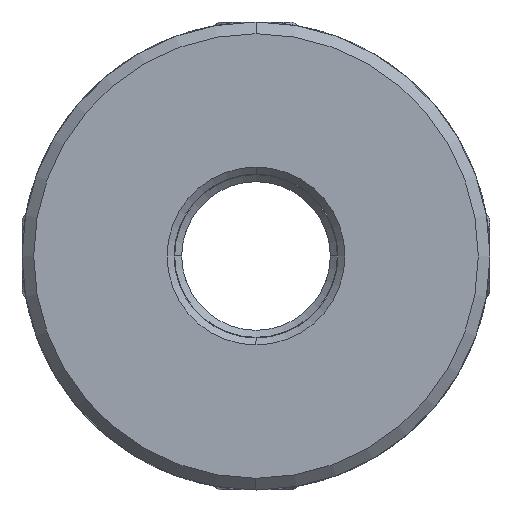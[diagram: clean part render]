
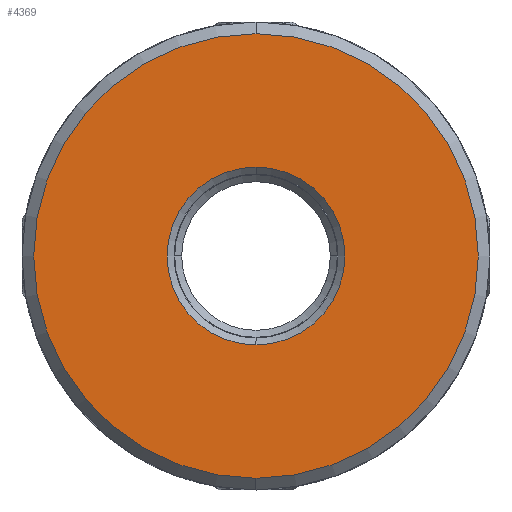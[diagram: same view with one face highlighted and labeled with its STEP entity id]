
A CAD part, front view. The second image highlights one B-rep face of the part: STEP entity #4369.
In plain terms, the highlighted planar face has unit normal (0, -1, 0).
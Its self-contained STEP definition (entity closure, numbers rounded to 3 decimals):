
#2 = VERTEX_POINT ( 'NONE', #3924 ) ;
#171 = CARTESIAN_POINT ( 'NONE',  ( 0., -23., 0. ) ) ;
#319 = EDGE_CURVE ( 'NONE', #595, #813, #8349, .T. ) ;
#582 = CARTESIAN_POINT ( 'NONE',  ( 0., -23., -9.5 ) ) ;
#595 = VERTEX_POINT ( 'NONE', #2813 ) ;
#813 = VERTEX_POINT ( 'NONE', #582 ) ;
#819 = CARTESIAN_POINT ( 'NONE',  ( 0., -23., 0. ) ) ;
#837 = CARTESIAN_POINT ( 'NONE',  ( 50., -23., -15.365 ) ) ;
#904 = DIRECTION ( 'NONE',  ( 0., 0., -1. ) ) ;
#991 = CIRCLE ( 'NONE', #9558, 3.8 ) ;
#1170 = CIRCLE ( 'NONE', #3636, 9.5 ) ;
#1273 = EDGE_CURVE ( 'NONE', #2, #4710, #991, .T. ) ;
#1505 = ORIENTED_EDGE ( 'NONE', *, *, #1829, .T. ) ;
#1645 = DIRECTION ( 'NONE',  ( 0., 0., -1. ) ) ;
#1829 = EDGE_CURVE ( 'NONE', #4710, #2, #5906, .T. ) ;
#1833 = FACE_BOUND ( 'NONE', #4892, .T. ) ;
#2253 = DIRECTION ( 'NONE',  ( 0., -1., 0. ) ) ;
#2264 = AXIS2_PLACEMENT_3D ( 'NONE', #8387, #3899, #1645 ) ;
#2813 = CARTESIAN_POINT ( 'NONE',  ( 0., -23., 9.5 ) ) ;
#3276 = DIRECTION ( 'NONE',  ( 0., 1., 0. ) ) ;
#3636 = AXIS2_PLACEMENT_3D ( 'NONE', #819, #2253, #7342 ) ;
#3792 = ORIENTED_EDGE ( 'NONE', *, *, #1273, .T. ) ;
#3899 = DIRECTION ( 'NONE',  ( 0., -1., 0. ) ) ;
#3924 = CARTESIAN_POINT ( 'NONE',  ( 0., -23., -3.8 ) ) ;
#4369 = ADVANCED_FACE ( 'NONE', ( #1833, #4915 ), #6821, .F. ) ;
#4710 = VERTEX_POINT ( 'NONE', #7876 ) ;
#4722 = DIRECTION ( 'NONE',  ( 0., 1., 0. ) ) ;
#4892 = EDGE_LOOP ( 'NONE', ( #1505, #3792 ) ) ;
#4894 = ORIENTED_EDGE ( 'NONE', *, *, #8637, .T. ) ;
#4915 = FACE_OUTER_BOUND ( 'NONE', #6986, .T. ) ;
#4977 = AXIS2_PLACEMENT_3D ( 'NONE', #171, #5554, #904 ) ;
#5554 = DIRECTION ( 'NONE',  ( 0., 1., 0. ) ) ;
#5906 = CIRCLE ( 'NONE', #4977, 3.8 ) ;
#6433 = CARTESIAN_POINT ( 'NONE',  ( 0., -23., 0. ) ) ;
#6488 = ORIENTED_EDGE ( 'NONE', *, *, #319, .T. ) ;
#6821 = PLANE ( 'NONE',  #7383 ) ;
#6986 = EDGE_LOOP ( 'NONE', ( #4894, #6488 ) ) ;
#7342 = DIRECTION ( 'NONE',  ( 0., 0., -1. ) ) ;
#7383 = AXIS2_PLACEMENT_3D ( 'NONE', #837, #4722, #9132 ) ;
#7876 = CARTESIAN_POINT ( 'NONE',  ( 0., -23., 3.8 ) ) ;
#8349 = CIRCLE ( 'NONE', #2264, 9.5 ) ;
#8387 = CARTESIAN_POINT ( 'NONE',  ( 0., -23., 0. ) ) ;
#8571 = DIRECTION ( 'NONE',  ( 0., 0., -1. ) ) ;
#8637 = EDGE_CURVE ( 'NONE', #813, #595, #1170, .T. ) ;
#9132 = DIRECTION ( 'NONE',  ( 0., 0., -1. ) ) ;
#9558 = AXIS2_PLACEMENT_3D ( 'NONE', #6433, #3276, #8571 ) ;
